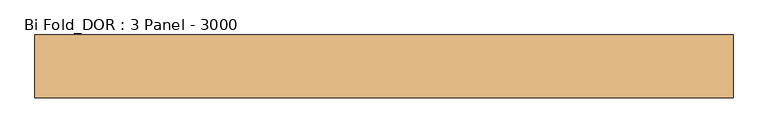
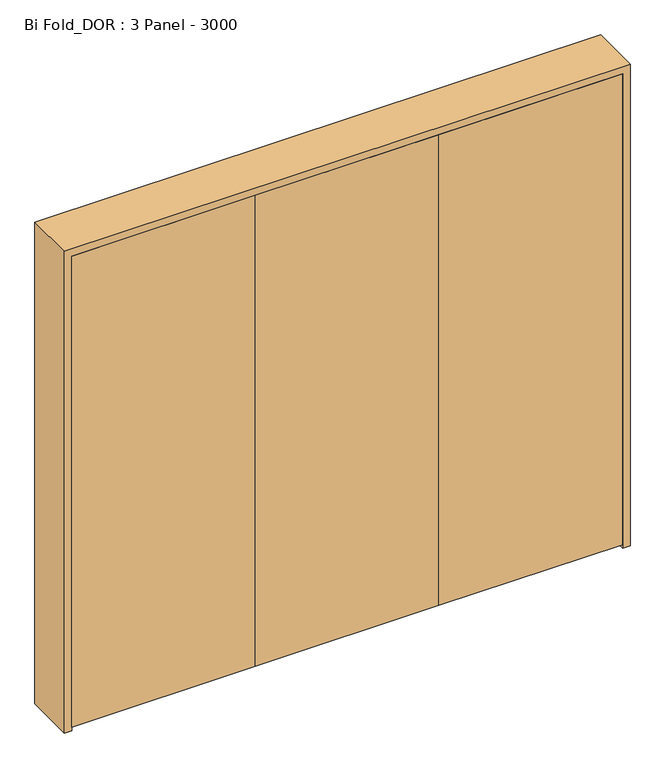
"""IFC4 building model written with IfcOpenShell, lengths in millimetres: door geometry, Bi Fold_DOR : 3 Panel - 3000."""

from ifc_helpers import new_model, si_unit, frame, origin, place, context, project, spatial, polyline, outline, extrude, source, transform, mapped, element, save


def bi_fold_dor_3_panel_3000_5813971a(model_context):
    return source(origin(), model_context, "Body", "SweptSolid", [
        extrude(outline(polyline([(1460.0, -95.0), (1460.0, -135.0), (486.6666667, -135.0), (486.6666667, -95.0), (1460.0, -95.0)])), frame((0.0, 0.0, 20.0), z_axis=(0.0, 0.0, 1.0), x_axis=(1.0, 0.0, 0.0)), (0.0, 0.0, 1.0), 2640.0),
        extrude(outline(polyline([(486.6666667, -95.0), (486.6666667, -135.0), (-486.6666667, -135.0), (-486.6666667, -95.0), (486.6666667, -95.0)])), frame((0.0, 0.0, 20.0), z_axis=(0.0, 0.0, 1.0), x_axis=(1.0, 0.0, 0.0)), (0.0, 0.0, 1.0), 2640.0),
        extrude(outline(polyline([(-486.6666667, -95.0), (-486.6666667, -135.0), (-1460.0, -135.0), (-1460.0, -95.0), (-486.6666667, -95.0)])), frame((0.0, 0.0, 20.0), z_axis=(0.0, 0.0, 1.0), x_axis=(1.0, 0.0, 0.0)), (0.0, 0.0, 1.0), 2640.0),
        extrude(outline(polyline([(0.0, 1500.0), (2700.0, 1500.0), (2700.0, -1500.0), (0.0, -1500.0), (0.0, -1460.0), (2660.0, -1460.0), (2660.0, 1460.0), (0.0, 1460.0), (0.0, 1500.0)])), frame((0.0, -135.0, 0.0), z_axis=(0.0, 1.0, 0.0), x_axis=(0.0, 0.0, 1.0)), (0.0, 0.0, 1.0), 270.0),
    ])


if __name__ == "__main__":
    model = new_model("IFC4")
    model_context = context("Model", 3, world=origin())
    ifc_project = project(units=[si_unit("LENGTHUNIT", "METRE", prefix="MILLI")], contexts=[model_context])
    site = spatial("IfcSite", under=ifc_project)
    building = spatial("IfcBuilding", under=site)
    placement = place(None, origin())
    bi_fold_dor_3_panel_3000_shape = bi_fold_dor_3_panel_3000_5813971a(model_context)
    element("IfcDoor", 1, ObjectType="Bi Fold_DOR : 3 Panel - 3000", at=placement, inside=building, context=model_context, shape_type="MappedRepresentation", body=[
        mapped(bi_fold_dor_3_panel_3000_shape, transform((0.0, 0.0, 0.0), x_axis=(1.0, 0.0, 0.0), y_axis=(0.0, 1.0, 0.0), z_axis=(0.0, 0.0, 1.0))),
    ])
    save(model, "model.ifc")
